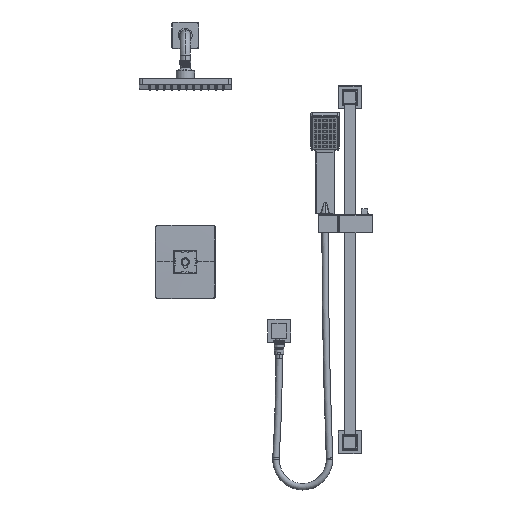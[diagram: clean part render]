
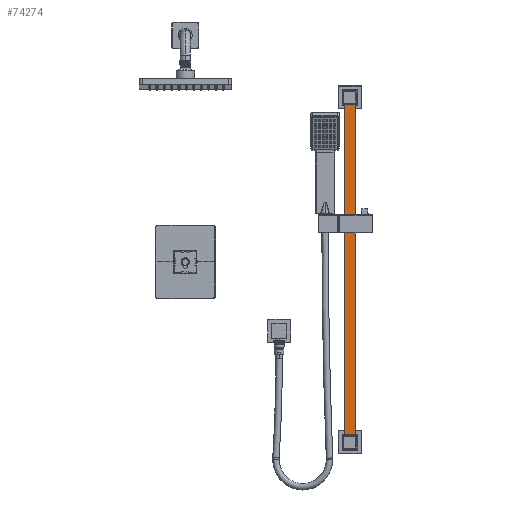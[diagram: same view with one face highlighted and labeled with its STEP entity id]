
A CAD part, top view. The second image highlights one B-rep face of the part: STEP entity #74274.
In plain terms, the highlighted planar face has unit normal (0, 0, 1).
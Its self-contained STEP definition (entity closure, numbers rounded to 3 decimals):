
#7343 = VERTEX_POINT ( 'NONE', #15772 ) ;
#11677 = DIRECTION ( 'NONE',  ( 0., 0., 1. ) ) ;
#14223 = VECTOR ( 'NONE', #60172, 1000. ) ;
#15772 = CARTESIAN_POINT ( 'NONE',  ( 370., -397., 77. ) ) ;
#20917 = VERTEX_POINT ( 'NONE', #63770 ) ;
#27053 = CARTESIAN_POINT ( 'NONE',  ( 370.5, -397., 77. ) ) ;
#29977 = CARTESIAN_POINT ( 'NONE',  ( 346., 363., 77. ) ) ;
#32505 = EDGE_CURVE ( 'NONE', #61511, #7343, #96684, .T. ) ;
#37809 = CARTESIAN_POINT ( 'NONE',  ( 370., 363., 77. ) ) ;
#45789 = VECTOR ( 'NONE', #88972, 1000. ) ;
#45958 = VECTOR ( 'NONE', #88132, 1000. ) ;
#46975 = FACE_OUTER_BOUND ( 'NONE', #96259, .T. ) ;
#47618 = ORIENTED_EDGE ( 'NONE', *, *, #57720, .F. ) ;
#53405 = CARTESIAN_POINT ( 'NONE',  ( 370., 363., 77. ) ) ;
#54246 = LINE ( 'NONE', #96952, #45789 ) ;
#54987 = PLANE ( 'NONE',  #100970 ) ;
#57720 = EDGE_CURVE ( 'NONE', #7343, #62608, #68702, .T. ) ;
#60172 = DIRECTION ( 'NONE',  ( -1., 0., 0. ) ) ;
#61511 = VERTEX_POINT ( 'NONE', #37809 ) ;
#62608 = VERTEX_POINT ( 'NONE', #109449 ) ;
#62980 = VECTOR ( 'NONE', #90939, 1000. ) ;
#63770 = CARTESIAN_POINT ( 'NONE',  ( 346., 363., 77. ) ) ;
#67420 = EDGE_CURVE ( 'NONE', #61511, #20917, #54246, .T. ) ;
#68702 = LINE ( 'NONE', #94319, #14223 ) ;
#74274 = ADVANCED_FACE ( 'NONE', ( #46975 ), #54987, .T. ) ;
#82055 = ORIENTED_EDGE ( 'NONE', *, *, #67420, .T. ) ;
#88132 = DIRECTION ( 'NONE',  ( 0., -1., 0. ) ) ;
#88972 = DIRECTION ( 'NONE',  ( -1., 0., 0. ) ) ;
#90939 = DIRECTION ( 'NONE',  ( 0., -1., 0. ) ) ;
#94319 = CARTESIAN_POINT ( 'NONE',  ( 370., -397., 77. ) ) ;
#95932 = ORIENTED_EDGE ( 'NONE', *, *, #101455, .T. ) ;
#96259 = EDGE_LOOP ( 'NONE', ( #82055, #95932, #47618, #104451 ) ) ;
#96684 = LINE ( 'NONE', #53405, #45958 ) ;
#96952 = CARTESIAN_POINT ( 'NONE',  ( 370., 363., 77. ) ) ;
#97122 = DIRECTION ( 'NONE',  ( 1., 0., 0. ) ) ;
#100970 = AXIS2_PLACEMENT_3D ( 'NONE', #27053, #11677, #97122 ) ;
#101455 = EDGE_CURVE ( 'NONE', #20917, #62608, #107470, .T. ) ;
#104451 = ORIENTED_EDGE ( 'NONE', *, *, #32505, .F. ) ;
#107470 = LINE ( 'NONE', #29977, #62980 ) ;
#109449 = CARTESIAN_POINT ( 'NONE',  ( 346., -397., 77. ) ) ;
